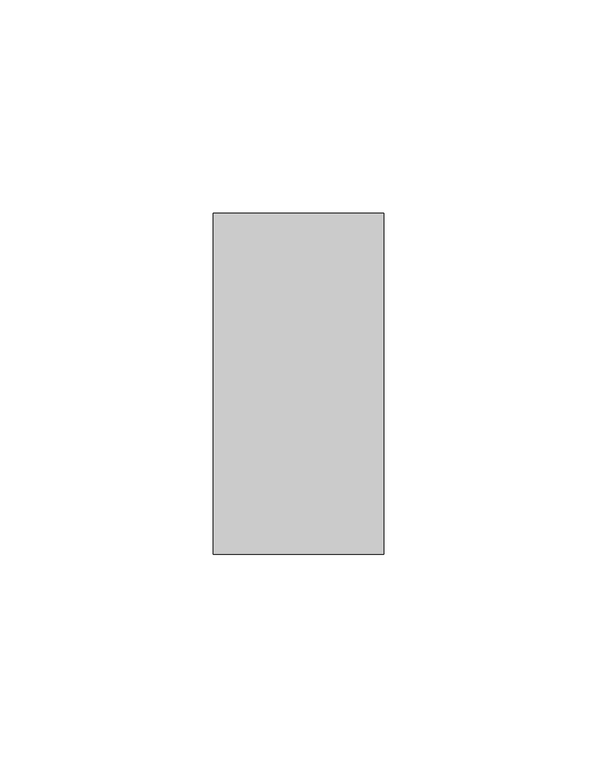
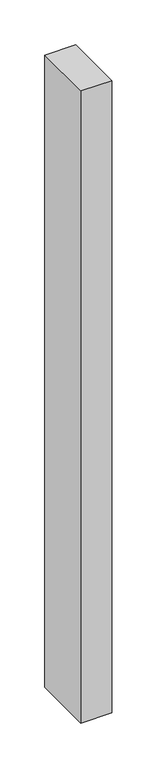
"""IFC4 building model written with IfcOpenShell, lengths in millimetres: member geometry, Obdélníková příčel : VERTI PANORAMA - vertikální."""

from ifc_helpers import new_model, si_unit, frame, origin, place, context, project, spatial, polyline, outline, extrude, source, transform, mapped, element, save


def member_f7df0378(model_context):
    return source(origin(), model_context, "Body", "SweptSolid", [
        extrude(outline(polyline([(0.0, 40.0), (0.0, -40.0), (-40.0, -40.0), (-40.0, 40.0), (0.0, 40.0)])), frame((0.0, 0.0, -860.0), z_axis=(0.0, 0.0, 1.0), x_axis=(1.0, 0.0, 0.0)), (0.0, 0.0, 1.0), 860.0),
    ])


if __name__ == "__main__":
    model = new_model("IFC4")
    model_context = context("Model", 3, world=origin())
    ifc_project = project(units=[si_unit("LENGTHUNIT", "METRE", prefix="MILLI")], contexts=[model_context])
    site = spatial("IfcSite", under=ifc_project)
    building = spatial("IfcBuilding", under=site)
    placement = place(None, origin())
    member_shape = member_f7df0378(model_context)
    element("IfcMember", 1, ObjectType="Obdélníková příčel : VERTI PANORAMA - vertikální", at=placement, inside=building, context=model_context, shape_type="MappedRepresentation", body=[
        mapped(member_shape, transform((0.0, 0.0, 0.0), x_axis=(1.0, 0.0, 0.0), y_axis=(0.0, 1.0, 0.0), z_axis=(0.0, 0.0, 1.0))),
    ])
    save(model, "model.ifc")
